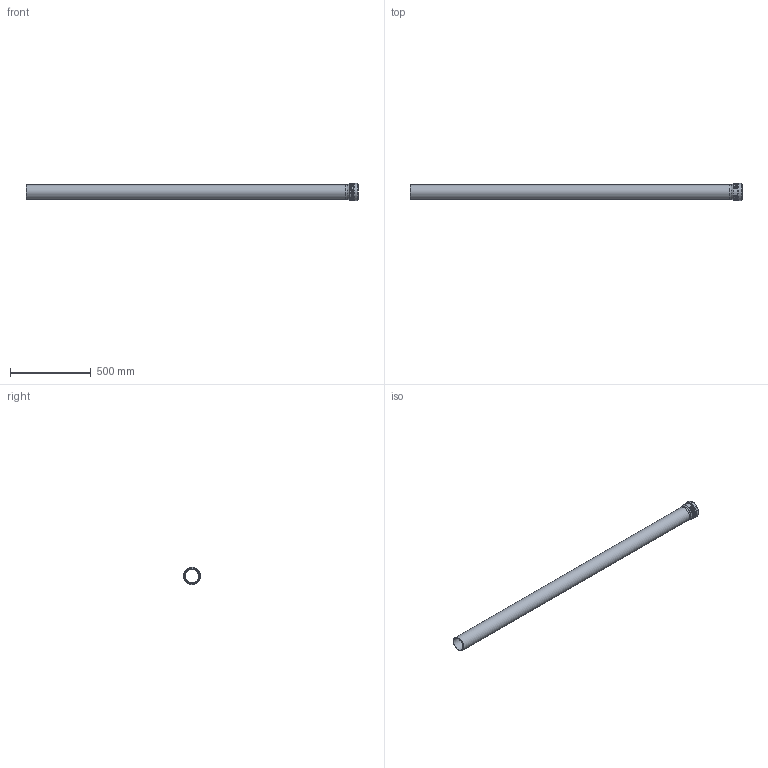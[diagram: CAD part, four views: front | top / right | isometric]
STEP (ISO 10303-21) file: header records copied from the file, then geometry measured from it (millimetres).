
FILE_DESCRIPTION(/* description */ (''),/* implementation_level */ '2;1');
FILE_NAME(/* name */ 'H:\Geberit-Teile\Export\PP_Rohr\stp\393406.stp',/* time_stamp */ '2017-02-13T16:07:42+01:00',/* author */ ('seihe2'),/* organization */ (''),/* preprocessor_version */ 'ST-DEVELOPER v15.2',/* originating_system */ 'Autodesk Inventor 2014',/* authorisation */ '');
FILE_SCHEMA (('AUTOMOTIVE_DESIGN { 1 0 10303 214 3 1 1 }'));
Length unit declared in the file: millimetre
Products named in the file (1): 393406
Bounding box: 2061 x 107 x 107 mm (x, y, z)
Volume: 2414890.7 mm3; surface area: 1134318.1 mm2
Topology: 2 solids, 2 shells, 38 faces, 81 edges, 56 vertices
Faces by surface type: torus 17, cylinder 10, plane 8, cone 2, bspline 1
Full cylindrical faces by diameter (mm): 81.6 x2, 90.2 x2, 91 x1, 93 x1, 98.8 x1, 100 x1, 100.8 x1, 107 x1
Entity records: 2149 total; most frequent: CARTESIAN_POINT 1370, DIRECTION 130, ORIENTED_EDGE 124, EDGE_LOOP 69, AXIS2_PLACEMENT_3D 65, EDGE_CURVE 62, VERTEX_POINT 55, STYLED_ITEM 40
